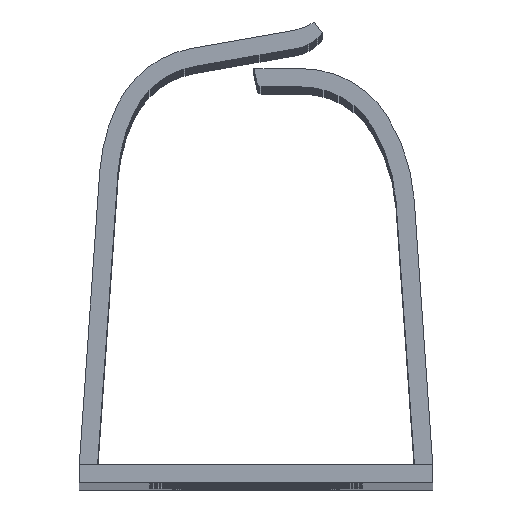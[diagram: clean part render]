
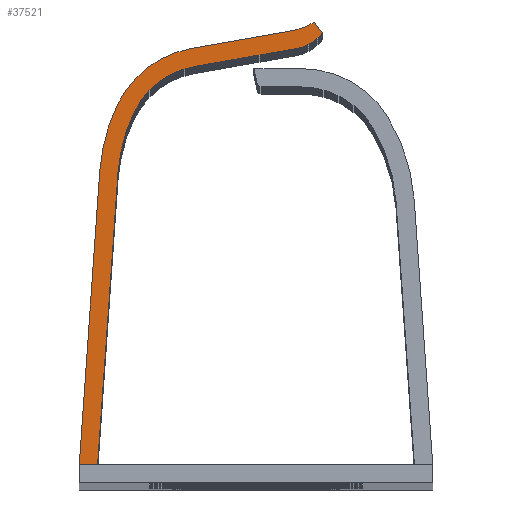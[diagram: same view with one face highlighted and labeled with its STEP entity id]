
A CAD part, top view. The second image highlights one B-rep face of the part: STEP entity #37521.
In plain terms, the highlighted planar face has unit normal (0, 0, 1).
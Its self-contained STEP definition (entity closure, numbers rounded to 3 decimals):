
#11253 = EDGE_CURVE('',#11254,#11256,#11258,.T.);
#11254 = VERTEX_POINT('',#11255);
#11255 = CARTESIAN_POINT('',(-21.25,2.2,249.4));
#11256 = VERTEX_POINT('',#11257);
#11257 = CARTESIAN_POINT('',(-19.045,2.2,249.4));
#11258 = LINE('',#11259,#11260);
#11259 = CARTESIAN_POINT('',(0.,2.2,249.4));
#11260 = VECTOR('',#11261,1.);
#11261 = DIRECTION('',(1.,-0.,0.));
#37216 = VERTEX_POINT('',#37217);
#37217 = CARTESIAN_POINT('',(-7.769,52.215,249.4));
#37223 = EDGE_CURVE('',#37216,#37224,#37226,.T.);
#37224 = VERTEX_POINT('',#37225);
#37225 = CARTESIAN_POINT('',(4.394,54.359,249.4));
#37226 = LINE('',#37227,#37228);
#37227 = CARTESIAN_POINT('',(-9.163,51.969,249.4));
#37228 = VECTOR('',#37229,1.);
#37229 = DIRECTION('',(0.985,0.174,0.));
#37255 = VERTEX_POINT('',#37256);
#37256 = CARTESIAN_POINT('',(-16.639,45.498,249.4));
#37262 = EDGE_CURVE('',#37255,#37216,#37263,.T.);
#37263 = CIRCLE('',#37264,12.2);
#37264 = AXIS2_PLACEMENT_3D('',#37265,#37266,#37267);
#37265 = CARTESIAN_POINT('',(-5.65,40.2,249.4));
#37266 = DIRECTION('',(0.,0.,-1.));
#37267 = DIRECTION('',(-1.,0.,0.));
#37288 = VERTEX_POINT('',#37289);
#37289 = CARTESIAN_POINT('',(-18.788,37.406,249.4));
#37295 = EDGE_CURVE('',#37288,#37255,#37296,.T.);
#37296 = CIRCLE('',#37297,22.2);
#37297 = AXIS2_PLACEMENT_3D('',#37298,#37299,#37300);
#37298 = CARTESIAN_POINT('',(3.358,35.857,249.4));
#37299 = DIRECTION('',(0.,0.,-1.));
#37300 = DIRECTION('',(-1.,0.,0.));
#37318 = EDGE_CURVE('',#11254,#37288,#37319,.T.);
#37319 = LINE('',#37320,#37321);
#37320 = CARTESIAN_POINT('',(-21.3,1.489,249.4));
#37321 = VECTOR('',#37322,1.);
#37322 = DIRECTION('',(0.07,0.998,0.));
#37342 = VERTEX_POINT('',#37343);
#37343 = CARTESIAN_POINT('',(-16.594,37.252,249.4));
#37349 = EDGE_CURVE('',#11256,#37342,#37350,.T.);
#37350 = LINE('',#37351,#37352);
#37351 = CARTESIAN_POINT('',(-19.105,1.336,249.4));
#37352 = VECTOR('',#37353,1.);
#37353 = DIRECTION('',(0.07,0.998,0.));
#37365 = EDGE_CURVE('',#37342,#37366,#37368,.T.);
#37366 = VERTEX_POINT('',#37367);
#37367 = CARTESIAN_POINT('',(-14.658,44.543,249.4));
#37368 = CIRCLE('',#37369,20.);
#37369 = AXIS2_PLACEMENT_3D('',#37370,#37371,#37372);
#37370 = CARTESIAN_POINT('',(3.358,35.857,249.4));
#37371 = DIRECTION('',(0.,0.,-1.));
#37372 = DIRECTION('',(-1.,0.,0.));
#37398 = EDGE_CURVE('',#37366,#37399,#37401,.T.);
#37399 = VERTEX_POINT('',#37400);
#37400 = CARTESIAN_POINT('',(-7.386,50.048,249.4));
#37401 = CIRCLE('',#37402,10.);
#37402 = AXIS2_PLACEMENT_3D('',#37403,#37404,#37405);
#37403 = CARTESIAN_POINT('',(-5.65,40.2,249.4));
#37404 = DIRECTION('',(0.,0.,-1.));
#37405 = DIRECTION('',(-1.,0.,0.));
#37439 = VERTEX_POINT('',#37440);
#37440 = CARTESIAN_POINT('',(4.839,52.204,249.4));
#37446 = EDGE_CURVE('',#37399,#37439,#37447,.T.);
#37447 = LINE('',#37448,#37449);
#37448 = CARTESIAN_POINT('',(-8.781,49.802,249.4));
#37449 = VECTOR('',#37450,1.);
#37450 = DIRECTION('',(0.985,0.174,0.));
#37471 = VERTEX_POINT('',#37472);
#37472 = CARTESIAN_POINT('',(7.95,54.1,249.4));
#37478 = EDGE_CURVE('',#37439,#37471,#37479,.T.);
#37479 = CIRCLE('',#37480,5.);
#37480 = AXIS2_PLACEMENT_3D('',#37481,#37482,#37483);
#37481 = CARTESIAN_POINT('',(3.971,57.128,249.4));
#37482 = DIRECTION('',(0.,-0.,1.));
#37483 = DIRECTION('',(-1.,0.,0.));
#37503 = VERTEX_POINT('',#37504);
#37504 = CARTESIAN_POINT('',(7.01,55.394,249.4));
#37510 = EDGE_CURVE('',#37471,#37503,#37511,.T.);
#37511 = LINE('',#37512,#37513);
#37512 = CARTESIAN_POINT('',(30.929,22.472,249.4));
#37513 = VECTOR('',#37514,1.);
#37514 = DIRECTION('',(-0.588,0.809,0.));
#37521 = ADVANCED_FACE('',(#37522),#37542,.F.);
#37522 = FACE_BOUND('',#37523,.T.);
#37523 = EDGE_LOOP('',(#37524,#37525,#37526,#37527,#37528,#37529,#37530,
    #37531,#37532,#37533,#37534,#37535));
#37524 = ORIENTED_EDGE('',*,*,#37223,.F.);
#37525 = ORIENTED_EDGE('',*,*,#37262,.F.);
#37526 = ORIENTED_EDGE('',*,*,#37295,.F.);
#37527 = ORIENTED_EDGE('',*,*,#37318,.F.);
#37528 = ORIENTED_EDGE('',*,*,#11253,.T.);
#37529 = ORIENTED_EDGE('',*,*,#37349,.T.);
#37530 = ORIENTED_EDGE('',*,*,#37365,.T.);
#37531 = ORIENTED_EDGE('',*,*,#37398,.T.);
#37532 = ORIENTED_EDGE('',*,*,#37446,.T.);
#37533 = ORIENTED_EDGE('',*,*,#37478,.T.);
#37534 = ORIENTED_EDGE('',*,*,#37510,.T.);
#37535 = ORIENTED_EDGE('',*,*,#37536,.F.);
#37536 = EDGE_CURVE('',#37224,#37503,#37537,.T.);
#37537 = CIRCLE('',#37538,7.);
#37538 = AXIS2_PLACEMENT_3D('',#37539,#37540,#37541);
#37539 = CARTESIAN_POINT('',(3.178,61.253,249.4));
#37540 = DIRECTION('',(-0.,0.,1.));
#37541 = DIRECTION('',(-1.,0.,-0.));
#37542 = PLANE('',#37543);
#37543 = AXIS2_PLACEMENT_3D('',#37544,#37545,#37546);
#37544 = CARTESIAN_POINT('',(0.,0.,249.4));
#37545 = DIRECTION('',(0.,0.,-1.));
#37546 = DIRECTION('',(-1.,0.,-0.));
